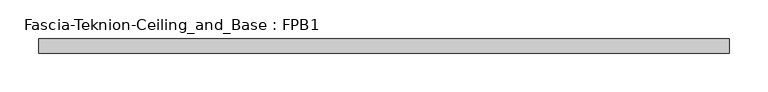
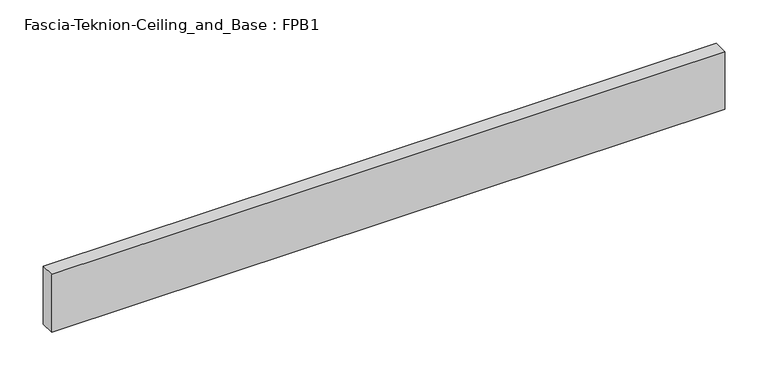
"""IFC4 building model written with IfcOpenShell, lengths in millimetres: proxy geometry, Fascia-Teknion-Ceiling_and_Base : FPB1."""

from ifc_helpers import new_model, si_unit, origin, origin_with_axes, place, context, project, spatial, polyline, outline, extrude, source, transform, mapped, element, save


def fascia_teknion_ceiling_and_base_fpb1_836afdf3(model_context):
    return source(origin(), model_context, "Body", "SweptSolid", [
        extrude(outline(polyline([(447.6253906, 0.0), (-447.6253906, 0.0), (-447.6253906, 19.05), (447.6253906, 19.05), (447.6253906, 0.0)])), origin_with_axes(), (0.0, 0.0, 1.0), 81.28),
    ])


if __name__ == "__main__":
    model = new_model("IFC4")
    model_context = context("Model", 3, world=origin())
    ifc_project = project(units=[si_unit("LENGTHUNIT", "METRE", prefix="MILLI")], contexts=[model_context])
    site = spatial("IfcSite", under=ifc_project)
    building = spatial("IfcBuilding", under=site)
    placement = place(None, origin())
    fascia_teknion_ceiling_and_base_fpb1_shape = fascia_teknion_ceiling_and_base_fpb1_836afdf3(model_context)
    element("IfcBuildingElementProxy", 1, Name="Fascia-Teknion-Ceiling_and_Base : FPB1", ObjectType="Fascia-Teknion-Ceiling_and_Base : FPB1", at=placement, inside=building, context=model_context, shape_type="MappedRepresentation", body=[
        mapped(fascia_teknion_ceiling_and_base_fpb1_shape, transform((0.0, 0.0, 0.0), x_axis=(1.0, 0.0, 0.0), y_axis=(0.0, 1.0, 0.0), z_axis=(0.0, 0.0, 1.0))),
    ])
    save(model, "model.ifc")
